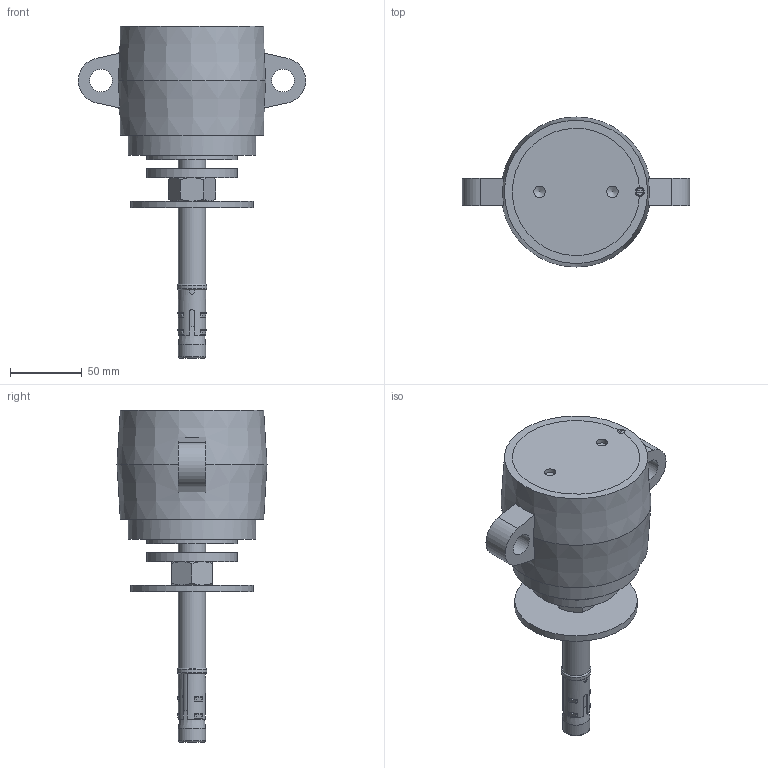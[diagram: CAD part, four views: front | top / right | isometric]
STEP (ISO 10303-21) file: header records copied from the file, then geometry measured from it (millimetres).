
FILE_DESCRIPTION(/* description */ (''),/* implementation_level */ '2;1');
FILE_NAME(/* name */ '\\Mleuckthor2\cad-proe_solids\WEBSITE FILES 05.22.13\STEP\SFFS\SFFS-NEW\SFFS-3_2INCH AIR GAP.stp',/* time_stamp */ '2016-03-02T07:56:57-05:00',/* author */ ('rramoutar'),/* organization */ ('Mason Industries Inc.'),/* preprocessor_version */ 'ST-DEVELOPER v15.6',/* originating_system */ 'Autodesk Inventor 2015',/* authorisation */ '');
FILE_SCHEMA (('CONFIG_CONTROL_DESIGN'));
Length unit declared in the file: inch
Products named in the file (1): SFFS-3
Bounding box: 158.75 x 104.78 x 231.78 mm (x, y, z)
Volume: 502245 mm3; surface area: 174854.4 mm2
Topology: 12 solids, 12 shells, 213 faces, 492 edges, 312 vertices
Faces by surface type: plane 87, cone 45, cylinder 45, bspline 25, torus 10, sphere 1
Full cylindrical faces by diameter (mm): 6.35 x1, 7.998 x2, 15.24 x1, 15.875 x3, 16.307 x2, 17.462 x1, 19.05 x2, 20.637 x4, 25.4 x1, 31.75 x2, 63.5 x4, 85.725 x1, 88.9 x2
Entity records: 6745 total; most frequent: CARTESIAN_POINT 2175, ORIENTED_EDGE 870, DIRECTION 850, EDGE_CURVE 435, AXIS2_PLACEMENT_3D 360, VERTEX_POINT 299, EDGE_LOOP 286, FACE_OUTER_BOUND 213
